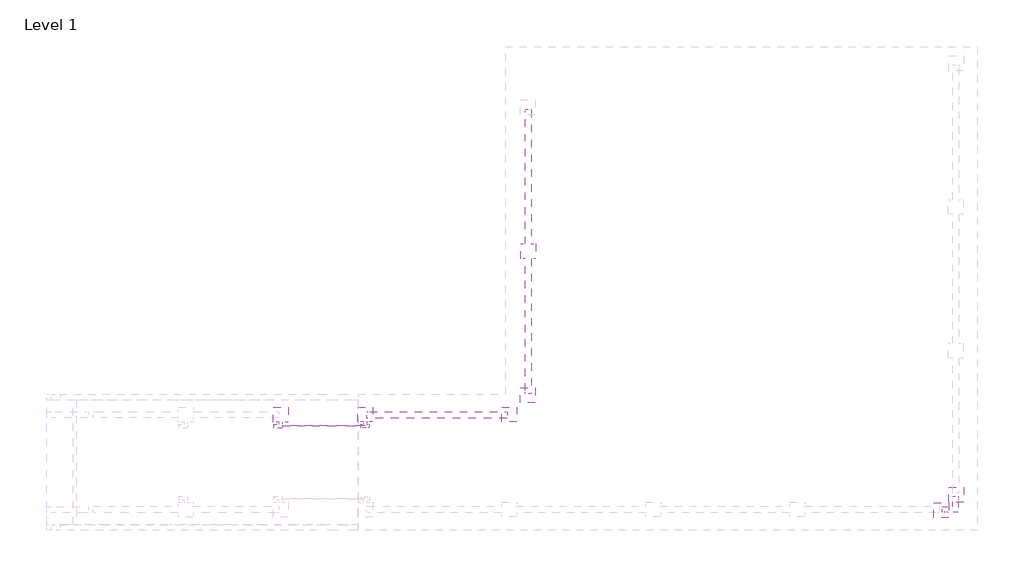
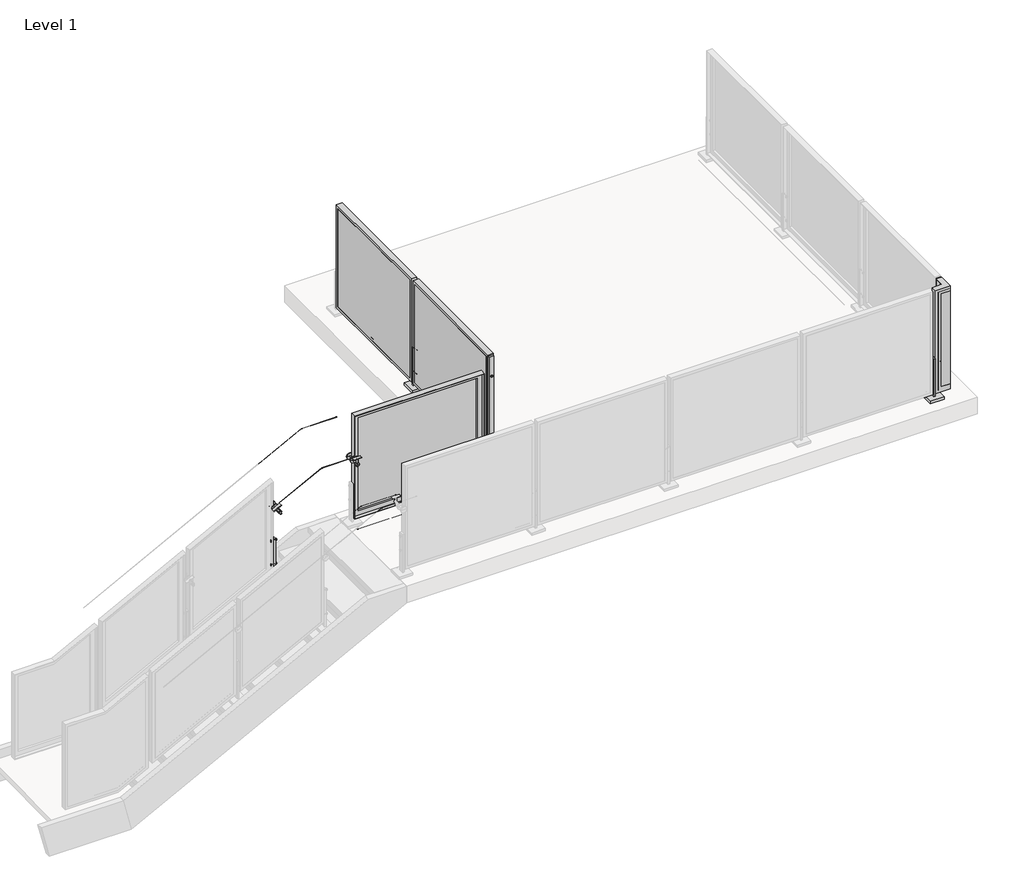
# One storey, part 17 of 37: 5 proxies, 4 railings.
"""IFC4 building model written with IfcOpenShell, lengths in millimetres."""

from ifc_helpers import new_model, si_unit, point, frame, frame_2d, origin, place, context, project, spatial, polyline, circle_curve, ellipse_curve, trimmed, segment, composite_curve, outline, extrude, faceted_brep, transform, mapped, element, save
from ifc_brep_helpers import plane_surface, cylinder_surface, advanced_brep
from components import baluster_end_post_viva_frame_top_mount_efd1a991, baluster_end_post_viva_frame_top_mount_8495f7c5, baluster_end_post_viva_frame_top_mount_259ace8d, baluster_end_post_viva_frame_top_mount_stairs_2918d103, baluster_corner_panel_viva_frame_inside_standard_3efb34d5

model = new_model("IFC4")

# Units and contexts
model_context = context("Model", 3, world=origin())
ifc_project = project(units=[si_unit("LENGTHUNIT", "METRE", prefix="MILLI")], contexts=[model_context])

# Site, building, storey
site = spatial("IfcSite", under=ifc_project)
building = spatial("IfcBuilding", under=site)
storey = spatial("IfcBuildingStorey", under=building, Name="Level 1", Elevation=0.0)

# Proxies
placement = place(None, origin())
baluster_end_post_viva_frame_top_mount_shape = baluster_end_post_viva_frame_top_mount_efd1a991(model_context)
element("IfcBuildingElementProxy", 1, Name="Baluster-End-Post-VIVA-FRAME-Top Mount : ANCHORED TO CONCRETE_TOP MOUNT FOLD_STRAIGHT", ObjectType="Baluster-End-Post-VIVA-FRAME-Top Mount : ANCHORED TO CONCRETE_TOP MOUNT FOLD_STRAIGHT", at=placement, inside=storey, context=model_context, shape_type="MappedRepresentation", body=[
    mapped(baluster_end_post_viva_frame_top_mount_shape, transform((-2333.6813244, -18323.6294547, 3047.492), x_axis=(1.0, 0.0, 0.0), y_axis=(0.0, 1.0, 0.0), z_axis=(0.0, 0.0, 1.0))),
])
element("IfcBuildingElementProxy", 2, Name="Baluster-End-Post-VIVA-FRAME-Top Mount : ANCHORED TO CONCRETE_TOP MOUNT FOLD_STRAIGHT", ObjectType="Baluster-End-Post-VIVA-FRAME-Top Mount : ANCHORED TO CONCRETE_TOP MOUNT FOLD_STRAIGHT", at=placement, inside=storey, context=model_context, shape_type="MappedRepresentation", body=[
    mapped(baluster_end_post_viva_frame_top_mount_shape, transform((-6143.6813244, -17681.7668664, 3047.492), x_axis=(-1.0, 0.0, 0.0), y_axis=(0.0, -1.0, 0.0), z_axis=(0.0, 0.0, 1.0))),
])
baluster_end_post_viva_frame_top_mount_2_shape = baluster_end_post_viva_frame_top_mount_8495f7c5(model_context)
element("IfcBuildingElementProxy", 3, Name="Baluster-End-Post-VIVA-FRAME-Top Mount : ANCHORED TO CONCRETE_TOP MOUNT FOLD_STRAIGHT", ObjectType="Baluster-End-Post-VIVA-FRAME-Top Mount : ANCHORED TO CONCRETE_TOP MOUNT FOLD_STRAIGHT", at=placement, inside=storey, context=model_context, shape_type="MappedRepresentation", body=[
    mapped(baluster_end_post_viva_frame_top_mount_2_shape, transform((-5877.9959244, -17412.2829234, 3047.492), x_axis=(0.0, -1.0, 0.0), y_axis=(1.0, 0.0, 0.0), z_axis=(0.0, 0.0, 1.0))),
])
baluster_end_post_viva_frame_top_mount_3_shape = baluster_end_post_viva_frame_top_mount_259ace8d(model_context)
element("IfcBuildingElementProxy", 4, Name="Baluster-End-Post-VIVA-FRAME-Top Mount : ANCHORED TO CONCRETE_TOP MOUNT FOLD_STRAIGHT", ObjectType="Baluster-End-Post-VIVA-FRAME-Top Mount : ANCHORED TO CONCRETE_TOP MOUNT FOLD_STRAIGHT", at=placement, inside=storey, context=model_context, shape_type="MappedRepresentation", body=[
    mapped(baluster_end_post_viva_frame_top_mount_3_shape, transform((-2300.8759339, -18290.5208207, 3047.492), x_axis=(0.0, 1.0, 0.0), y_axis=(-1.0, 0.0, 0.0), z_axis=(0.0, 0.0, 1.0))),
])
baluster_end_post_viva_frame_top_mount_stairs_shape = baluster_end_post_viva_frame_top_mount_stairs_2918d103(model_context)
element("IfcBuildingElementProxy", 5, Name="Baluster-End-Post-VIVA-FRAME-Top Mount Stairs : ANCHORED TO CONCRETE_TOP MOUNT FRAME_STAIR", ObjectType="Baluster-End-Post-VIVA-FRAME-Top Mount Stairs : ANCHORED TO CONCRETE_TOP MOUNT FRAME_STAIR", at=placement, inside=storey, context=model_context, shape_type="MappedRepresentation", body=[
    mapped(baluster_end_post_viva_frame_top_mount_stairs_shape, transform((-7413.6813244, -17681.7578387, 3784.092), x_axis=(-1.0, 0.0, 0.0), y_axis=(0.0, -1.0, 0.0), z_axis=(0.0, 0.0, 1.0))),
])

# Railings
element("IfcRailing", 6, ObjectType="Metal-Panel-VIVA-FRAME-Slab-Top-Anchor-Stairs-Landing-Upper", at=placement, inside=storey, context=model_context, shape_type="SolidModel", body=[
    advanced_brep(
    [(-8159.4813244, -17682.0118387, 3573.1968892), (-8159.4813244, -17681.5038387, 3573.1968892), (-7753.0192861, -17682.0118387, 3784.346), (-7753.0192861, -17681.5038387, 3784.346), (-7413.6813244, -17682.0118387, 3784.346), (-7413.6813244, -17681.5038387, 3784.346)],
    [
        (0, 1, ellipse_curve(frame((-8159.4813244, -17681.7578387, 3573.1968892), z_axis=(-1.0, 0.0, 0.0), x_axis=(0.0, 0.0, -1.0)), 0.2862277, 0.254)),
        (1, 0, ellipse_curve(frame((-8159.4813244, -17681.7578387, 3573.1968892), z_axis=(-1.0, 0.0, 0.0), x_axis=(0.0, 0.0, -1.0)), 0.2862277, 0.254)),
        (0, 2),
        (2, 3, ellipse_curve(frame((-7753.0192861, -17681.7578387, 3784.346), z_axis=(-0.9714436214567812, 0.0, -0.2372705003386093), x_axis=(0.23727050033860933, 0.0, -0.9714436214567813)), 0.2614665, 0.254)),
        (3, 1),
        (3, 2, ellipse_curve(frame((-7753.0192861, -17681.7578387, 3784.346), z_axis=(-0.9714436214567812, 0.0, -0.2372705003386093), x_axis=(0.23727050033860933, 0.0, -0.9714436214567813)), 0.2614665, 0.254)),
        (4, 5, circle_curve(frame((-7413.6813244, -17681.7578387, 3784.346), z_axis=(1.0, 0.0, 0.0), x_axis=(0.0, 1.0, 0.0)), 0.254)),
        (5, 4, circle_curve(frame((-7413.6813244, -17681.7578387, 3784.346), z_axis=(1.0, 0.0, 0.0), x_axis=(0.0, 1.0, 0.0)), 0.254)),
        (2, 4),
        (5, 3),
    ],
    [
        plane_surface(frame((-8159.4813244, -17681.7578387, 3573.4831169), z_axis=(-1.0, 0.0, 0.0), x_axis=(0.0, 1.0, 0.0))),
        cylinder_surface(frame((-8159.364233, -17681.7578387, 3573.2577159), z_axis=(-0.887405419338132, 0.0, -0.4609898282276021), x_axis=(0.0, 1.0, 0.0)), 0.254),
        plane_surface(frame((-7413.6813244, -17681.7578387, 3784.6), z_axis=(1.0, 0.0, 0.0), x_axis=(0.0, 1.0, 0.0))),
        cylinder_surface(frame((-7753.0813244, -17681.7578387, 3784.346), z_axis=(-1.0, 0.0, 0.0), x_axis=(0.0, 1.0, 0.0)), 0.254),
    ],
    [
        (0, [[1, 2]]),
        (1, [[-1, 3, 4, 5]]),
        (1, [[-2, -5, 6, -3]]),
        (2, [[7, 8]]),
        (3, [[-4, 9, -8, 10]]),
        (3, [[-6, -10, -7, -9]]),
    ],
),
    advanced_brep(
    [(-8159.4813244, -17340.7578387, 3763.4196766), (-8159.4813244, -17339.7578387, 3763.4196766), (-7752.9592018, -17340.7578387, 3974.6), (-7752.9592018, -17339.7578387, 3974.6), (-7413.6813244, -17340.7578387, 3974.6), (-7413.6813244, -17339.7578387, 3974.6)],
    [
        (0, 1, ellipse_curve(frame((-8159.4813244, -17340.2578387, 3763.4196766), z_axis=(-1.0, 0.0, 0.0), x_axis=(0.0, 0.0, -1.0)), 0.5634403, 0.5)),
        (1, 0, ellipse_curve(frame((-8159.4813244, -17340.2578387, 3763.4196766), z_axis=(-1.0, 0.0, 0.0), x_axis=(0.0, 0.0, -1.0)), 0.5634403, 0.5)),
        (0, 2),
        (2, 3, ellipse_curve(frame((-7752.9592018, -17340.2578387, 3974.6), z_axis=(-0.9714436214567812, 0.0, -0.2372705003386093), x_axis=(0.23727050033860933, 0.0, -0.9714436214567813)), 0.5146979, 0.5)),
        (3, 1),
        (3, 2, ellipse_curve(frame((-7752.9592018, -17340.2578387, 3974.6), z_axis=(-0.9714436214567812, 0.0, -0.2372705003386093), x_axis=(0.23727050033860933, 0.0, -0.9714436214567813)), 0.5146979, 0.5)),
        (4, 5, circle_curve(frame((-7413.6813244, -17340.2578387, 3974.6), z_axis=(1.0, 0.0, 0.0), x_axis=(0.0, 1.0, 0.0)), 0.5)),
        (5, 4, circle_curve(frame((-7413.6813244, -17340.2578387, 3974.6), z_axis=(1.0, 0.0, 0.0), x_axis=(0.0, 1.0, 0.0)), 0.5)),
        (2, 4),
        (5, 3),
    ],
    [
        plane_surface(frame((-8159.4813244, -17340.2578387, 3763.9831169), z_axis=(-1.0, 0.0, 0.0), x_axis=(0.0, 1.0, 0.0))),
        cylinder_surface(frame((-8159.2508295, -17340.2578387, 3763.5394142), z_axis=(-0.887405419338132, 0.0, -0.4609898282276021), x_axis=(0.0, 1.0, 0.0)), 0.5),
        plane_surface(frame((-7413.6813244, -17340.2578387, 3975.1), z_axis=(1.0, 0.0, 0.0), x_axis=(0.0, 1.0, 0.0))),
        cylinder_surface(frame((-7753.0813244, -17340.2578387, 3974.6), z_axis=(-1.0, 0.0, 0.0), x_axis=(0.0, 1.0, 0.0)), 0.5),
    ],
    [
        (0, [[1, 2]]),
        (1, [[-1, 3, 4, 5]]),
        (1, [[-2, -5, 6, -3]]),
        (2, [[7, 8]]),
        (3, [[-4, 9, -8, 10]]),
        (3, [[-6, -10, -7, -9]]),
    ],
),
    extrude(outline(composite_curve([segment(trimmed(circle_curve(frame_2d((-19.0451471, 0.0)), 22.0448871), [point((2.99974, -1e-07))], [point((-24.3499073, -21.397116))], False, "CARTESIAN"), True, "CONTINUOUS"), segment(polyline([(-24.3499073, -21.397116), (-23.6280664, -18.4855208)]), True, "CONTINUOUS"), segment(trimmed(circle_curve(frame_2d((-19.0451471, 0.0)), 19.0451471), [point((-23.6280664, -18.4855208))], [point((0.0, 0.0))], True, "CARTESIAN"), True, "CONTINUOUS"), segment(polyline([(0.0, 0.0), (2.99974, -1e-07)]), True, "CONTINUOUS")], self_intersect=False)), frame((-8221.9690349, -17670.1360387, 3522.3349137), z_axis=(0.8874054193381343, 0.0, 0.46098982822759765), x_axis=(0.2840545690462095, 0.7876022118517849, -0.5468050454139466)), (0.0, 0.0, 1.0), 79.1184357),
    advanced_brep(
    [(-8147.0841468, -17685.1360387, 3463.9951499), (-8147.0841468, -17692.2797887, 3463.9951499), (-8147.0841468, -17677.9922887, 3463.9951499), (-8182.9433931, -17677.9922887, 3533.024199), (-8182.9433931, -17692.2797887, 3533.024199), (-8182.9433931, -17685.1360387, 3533.024199)],
    [
        (0, 1),
        (1, 2, circle_curve(frame((-8147.0841468, -17685.1360387, 3463.9951499), z_axis=(0.4609898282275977, 0.0, -0.8874054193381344), x_axis=(0.0, -1.0000000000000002, 0.0)), 7.14375)),
        (2, 0),
        (3, 4, circle_curve(frame((-8182.9433931, -17685.1360387, 3533.024199), z_axis=(-0.4609898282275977, 0.0, 0.8874054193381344), x_axis=(0.0, -1.0000000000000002, 0.0)), 7.14375)),
        (4, 5),
        (5, 3),
        (2, 1, circle_curve(frame((-8147.0841468, -17685.1360387, 3463.9951499), z_axis=(0.4609898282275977, 0.0, -0.8874054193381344), x_axis=(0.0, -1.0000000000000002, 0.0)), 7.14375)),
        (4, 3, circle_curve(frame((-8182.9433931, -17685.1360387, 3533.024199), z_axis=(-0.4609898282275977, 0.0, 0.8874054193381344), x_axis=(0.0, -1.0000000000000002, 0.0)), 7.14375)),
        (1, 4),
        (3, 2),
    ],
    [
        plane_surface(frame((-8147.0841468, -17685.1360387, 3463.9951499), z_axis=(0.4609898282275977, 0.0, -0.8874054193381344), x_axis=(0.0, -1.0, 0.0))),
        plane_surface(frame((-8182.9433931, -17685.1360387, 3533.024199), z_axis=(-0.4609898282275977, 0.0, 0.8874054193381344), x_axis=(0.0, -1.0, 0.0))),
        cylinder_surface(frame((-8030.1299469, -17685.1360387, 3238.8583152), z_axis=(0.4609898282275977, 0.0, -0.8874054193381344), x_axis=(0.0, -1.0000000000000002, 0.0)), 7.14375),
    ],
    [
        (0, [[1, 2, 3]]),
        (1, [[4, 5, 6]]),
        (0, [[-3, 7, -1]]),
        (1, [[8, -6, -5]]),
        (2, [[-2, 9, -4, 10]]),
        (2, [[-7, -10, -8, -9]]),
    ],
),
    advanced_brep(
    [(-8186.2476904, -17558.1360387, 3473.9551112), (-8132.7149585, -17558.1360387, 3501.7643226), (-8153.8463, -17558.1360387, 3490.7870023), (-8165.1163488, -17558.1360387, 3484.9324315), (-8186.2476904, -17550.1985387, 3473.9551112), (-8132.7149585, -17550.1985387, 3501.7643226), (-8186.2476904, -17616.8735387, 3473.9551112), (-8132.7149585, -17616.8735387, 3501.7643226), (-8148.2112756, -17616.8735387, 3493.7142877), (-8170.7513733, -17616.8735387, 3482.0051461), (-8186.2476904, -17608.9360387, 3473.9551112), (-8132.7149585, -17608.9360387, 3501.7643226), (-8159.4813244, -17550.1985387, 3487.8597169), (-8170.7513733, -17696.2485387, 3482.0051461), (-8148.2112756, -17696.2485387, 3493.7142877), (-8159.4813244, -17696.2485387, 3487.8597169), (-8165.1163488, -17608.9360387, 3484.9324315), (-8153.8463, -17608.9360387, 3490.7870023)],
    [
        (0, 1, circle_curve(frame((-8159.4813244, -17558.1360387, 3487.8597169), z_axis=(0.0, -1.0, 0.0), x_axis=(0.8874054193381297, 0.0, 0.4609898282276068)), 30.1625)),
        (1, 2),
        (2, 3, circle_curve(frame((-8159.4813244, -17558.1360387, 3487.8597169), z_axis=(0.0, 1.0, 0.0), x_axis=(0.8874054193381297, 0.0, 0.4609898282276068)), 6.35)),
        (3, 0),
        (4, 5, circle_curve(frame((-8159.4813244, -17550.1985387, 3487.8597169), z_axis=(0.0, -1.0, 0.0), x_axis=(0.8874054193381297, 0.0, 0.4609898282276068)), 30.1625)),
        (5, 1),
        (0, 4),
        (6, 7, circle_curve(frame((-8159.4813244, -17616.8735387, 3487.8597169), z_axis=(0.0, -1.0, 0.0), x_axis=(0.8874054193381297, 0.0, 0.4609898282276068)), 30.1625)),
        (7, 8),
        (8, 9, circle_curve(frame((-8159.4813244, -17616.8735387, 3487.8597169), z_axis=(0.0, 1.0, 0.0), x_axis=(0.8874054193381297, 0.0, 0.4609898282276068)), 12.7)),
        (9, 6),
        (10, 11, circle_curve(frame((-8159.4813244, -17608.9360387, 3487.8597169), z_axis=(0.0, -1.0, 0.0), x_axis=(0.8874054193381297, 0.0, 0.4609898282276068)), 30.1625)),
        (11, 7),
        (6, 10),
        (5, 4, circle_curve(frame((-8159.4813244, -17550.1985387, 3487.8597169), z_axis=(0.0, -1.0, 0.0), x_axis=(0.8874054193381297, 0.0, 0.4609898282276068)), 30.1625)),
        (0, 1, circle_curve(frame((-8159.4813244, -17558.1360387, 3487.8597169), z_axis=(0.0, 1.0, 0.0), x_axis=(0.8874054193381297, 0.0, 0.4609898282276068)), 30.1625)),
        (12, 5),
        (4, 12),
        (13, 14, circle_curve(frame((-8159.4813244, -17696.2485387, 3487.8597169), z_axis=(0.0, -1.0, 0.0), x_axis=(0.8874054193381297, 0.0, 0.4609898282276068)), 12.7)),
        (14, 15),
        (15, 13),
        (14, 13, circle_curve(frame((-8159.4813244, -17696.2485387, 3487.8597169), z_axis=(0.0, -1.0, 0.0), x_axis=(0.8874054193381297, 0.0, 0.4609898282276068)), 12.7)),
        (8, 14),
        (13, 9),
        (8, 9, circle_curve(frame((-8159.4813244, -17616.8735387, 3487.8597169), z_axis=(0.0, -1.0, 0.0), x_axis=(0.8874054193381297, 0.0, 0.4609898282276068)), 12.7)),
        (7, 6, circle_curve(frame((-8159.4813244, -17616.8735387, 3487.8597169), z_axis=(0.0, -1.0, 0.0), x_axis=(0.8874054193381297, 0.0, 0.4609898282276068)), 30.1625)),
        (11, 10, circle_curve(frame((-8159.4813244, -17608.9360387, 3487.8597169), z_axis=(0.0, -1.0, 0.0), x_axis=(0.8874054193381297, 0.0, 0.4609898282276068)), 30.1625)),
        (16, 17, circle_curve(frame((-8159.4813244, -17608.9360387, 3487.8597169), z_axis=(0.0, -1.0, 0.0), x_axis=(0.8874054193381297, 0.0, 0.4609898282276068)), 6.35)),
        (17, 11),
        (10, 16),
        (17, 16, circle_curve(frame((-8159.4813244, -17608.9360387, 3487.8597169), z_axis=(0.0, -1.0, 0.0), x_axis=(0.8874054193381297, 0.0, 0.4609898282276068)), 6.35)),
        (2, 17),
        (16, 3),
        (2, 3, circle_curve(frame((-8159.4813244, -17558.1360387, 3487.8597169), z_axis=(0.0, -1.0, 0.0), x_axis=(0.8874054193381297, 0.0, 0.4609898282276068)), 6.35)),
    ],
    [
        plane_surface(frame((-8159.4813244, -17558.1360387, 3487.8597169), z_axis=(0.0, -1.0000000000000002, 0.0), x_axis=(0.8874054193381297, 0.0, 0.4609898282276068))),
        cylinder_surface(frame((-8159.4813244, -16084.9360387, 3487.8597169), z_axis=(0.0, 1.0000000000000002, 0.0), x_axis=(0.8874054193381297, 0.0, 0.4609898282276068)), 30.1625),
        plane_surface(frame((-8159.4813244, -17616.8735387, 3487.8597169), z_axis=(0.0, -1.0000000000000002, 0.0), x_axis=(0.8874054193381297, 0.0, 0.4609898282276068))),
        plane_surface(frame((-8159.4813244, -17550.1985387, 3487.8597169), z_axis=(0.0, 1.0000000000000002, 0.0), x_axis=(0.8874054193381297, 0.0, 0.4609898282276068))),
        plane_surface(frame((-8159.4813244, -17696.2485387, 3487.8597169), z_axis=(0.0, -1.0000000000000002, 0.0), x_axis=(0.8874054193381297, 0.0, 0.4609898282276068))),
        cylinder_surface(frame((-8159.4813244, -16084.9360387, 3487.8597169), z_axis=(0.0, 1.0000000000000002, 0.0), x_axis=(0.8874054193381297, 0.0, 0.4609898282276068)), 12.7),
        plane_surface(frame((-8159.4813244, -17608.9360387, 3487.8597169), z_axis=(0.0, 1.0000000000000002, 0.0), x_axis=(0.8874054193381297, 0.0, 0.4609898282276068))),
        cylinder_surface(frame((-8159.4813244, -16084.9360387, 3487.8597169), z_axis=(0.0, 1.0000000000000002, 0.0), x_axis=(0.8874054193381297, 0.0, 0.4609898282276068)), 6.35),
    ],
    [
        (0, [[1, 2, 3, 4]]),
        (1, [[5, 6, -1, 7]]),
        (2, [[8, 9, 10, 11]]),
        (1, [[12, 13, -8, 14]]),
        (1, [[15, -7, 16, -6]]),
        (3, [[17, -5, 18]]),
        (3, [[-18, -15, -17]]),
        (4, [[19, 20, 21]]),
        (4, [[22, -21, -20]]),
        (5, [[-10, 23, -19, 24]]),
        (5, [[25, -24, -22, -23]]),
        (2, [[26, -11, -25, -9]]),
        (1, [[27, -14, -26, -13]]),
        (6, [[28, 29, -12, 30]]),
        (6, [[31, -30, -27, -29]]),
        (7, [[-3, 32, -28, 33]]),
        (7, [[34, -33, -31, -32]]),
        (0, [[-16, -4, -34, -2]]),
    ],
),
    advanced_brep(
    [(-8185.6687244, -17583.5360387, 2887.8638857), (-8185.6687244, -17583.5360387, 2897.4142857), (-8185.6687244, -17583.5360387, 2906.9646857), (-8180.8935244, -17583.5360387, 2887.8638857), (-8180.8935244, -17583.5360387, 2906.9646857), (-8180.8935244, -17583.5360387, 2892.6390857), (-8180.8935244, -17583.5360387, 2902.1894857), (-8138.0691244, -17583.5360387, 2892.6390857), (-8138.0691244, -17583.5360387, 2902.1894857), (-8138.0691244, -17583.5360387, 2887.8638857), (-8138.0691244, -17583.5360387, 2906.9646857), (-8133.2939244, -17583.5360387, 2887.8638857), (-8133.2939244, -17583.5360387, 2906.9646857), (-8133.2939244, -17583.5360387, 2897.4142857)],
    [
        (0, 1),
        (1, 2),
        (2, 0, circle_curve(frame((-8185.6687244, -17583.5360387, 2897.4142857), z_axis=(-1.0, 0.0, 0.0), x_axis=(0.0, 0.0, 1.0)), 9.5504)),
        (0, 2, circle_curve(frame((-8185.6687244, -17583.5360387, 2897.4142857), z_axis=(-1.0, 0.0, 0.0), x_axis=(0.0, 0.0, 1.0)), 9.5504)),
        (3, 0),
        (2, 4),
        (4, 3, circle_curve(frame((-8180.8935244, -17583.5360387, 2897.4142857), z_axis=(-1.0, 0.0, 0.0), x_axis=(0.0, 0.0, 1.0)), 9.5504)),
        (3, 4, circle_curve(frame((-8180.8935244, -17583.5360387, 2897.4142857), z_axis=(-1.0, 0.0, 0.0), x_axis=(0.0, 0.0, 1.0)), 9.5504)),
        (5, 3),
        (4, 6),
        (6, 5, circle_curve(frame((-8180.8935244, -17583.5360387, 2897.4142857), z_axis=(-1.0, 0.0, 0.0), x_axis=(0.0, 0.0, 1.0)), 4.7752)),
        (5, 6, circle_curve(frame((-8180.8935244, -17583.5360387, 2897.4142857), z_axis=(-1.0, 0.0, 0.0), x_axis=(0.0, 0.0, 1.0)), 4.7752)),
        (7, 5),
        (6, 8),
        (8, 7, circle_curve(frame((-8138.0691244, -17583.5360387, 2897.4142857), z_axis=(-1.0, 0.0, 0.0), x_axis=(0.0, 0.0, 1.0)), 4.7752)),
        (7, 8, circle_curve(frame((-8138.0691244, -17583.5360387, 2897.4142857), z_axis=(-1.0, 0.0, 0.0), x_axis=(0.0, 0.0, 1.0)), 4.7752)),
        (9, 7),
        (8, 10),
        (10, 9, circle_curve(frame((-8138.0691244, -17583.5360387, 2897.4142857), z_axis=(-1.0, 0.0, 0.0), x_axis=(0.0, 0.0, 1.0)), 9.5504)),
        (9, 10, circle_curve(frame((-8138.0691244, -17583.5360387, 2897.4142857), z_axis=(-1.0, 0.0, 0.0), x_axis=(0.0, 0.0, 1.0)), 9.5504)),
        (11, 9),
        (10, 12),
        (12, 11, circle_curve(frame((-8133.2939244, -17583.5360387, 2897.4142857), z_axis=(-1.0, 0.0, 0.0), x_axis=(0.0, 0.0, 1.0)), 9.5504)),
        (11, 12, circle_curve(frame((-8133.2939244, -17583.5360387, 2897.4142857), z_axis=(-1.0, 0.0, 0.0), x_axis=(0.0, 0.0, 1.0)), 9.5504)),
        (13, 11),
        (12, 13),
    ],
    [
        plane_surface(frame((-8185.6687244, -17583.5360387, 2897.4142857), z_axis=(-1.0, 0.0, 0.0), x_axis=(0.0, 0.0, 1.0))),
        cylinder_surface(frame((-11577.2490816, -17583.5360387, 2897.4142857), z_axis=(1.0, 0.0, 0.0), x_axis=(0.0, 0.0, 1.0)), 9.5504),
        plane_surface(frame((-8180.8935244, -17583.5360387, 2897.4142857), z_axis=(1.0, 0.0, 0.0), x_axis=(0.0, 0.0, 1.0))),
        cylinder_surface(frame((-11577.2490816, -17583.5360387, 2897.4142857), z_axis=(1.0, 0.0, 0.0), x_axis=(0.0, 0.0, 1.0)), 4.7752),
        plane_surface(frame((-8138.0691244, -17583.5360387, 2897.4142857), z_axis=(-1.0, 0.0, 0.0), x_axis=(0.0, 0.0, 1.0))),
        plane_surface(frame((-8133.2939244, -17583.5360387, 2897.4142857), z_axis=(1.0, 0.0, 0.0), x_axis=(0.0, 0.0, 1.0))),
    ],
    [
        (0, [[1, 2, 3]]),
        (0, [[-2, -1, 4]]),
        (1, [[5, -3, 6, 7]]),
        (1, [[-6, -4, -5, 8]]),
        (2, [[9, -7, 10, 11]]),
        (2, [[-10, -8, -9, 12]]),
        (3, [[13, -11, 14, 15]]),
        (3, [[-14, -12, -13, 16]]),
        (4, [[17, -15, 18, 19]]),
        (4, [[-18, -16, -17, 20]]),
        (1, [[21, -19, 22, 23]]),
        (1, [[-22, -20, -21, 24]]),
        (5, [[25, -23, 26]]),
        (5, [[-26, -24, -25]]),
    ],
),
    advanced_brep(
    [(-8185.6687244, -17583.5360387, 3129.1638857), (-8185.6687244, -17583.5360387, 3138.7142857), (-8185.6687244, -17583.5360387, 3148.2646857), (-8180.8935244, -17583.5360387, 3129.1638857), (-8180.8935244, -17583.5360387, 3148.2646857), (-8180.8935244, -17583.5360387, 3133.9390857), (-8180.8935244, -17583.5360387, 3143.4894857), (-8138.0691244, -17583.5360387, 3133.9390857), (-8138.0691244, -17583.5360387, 3143.4894857), (-8138.0691244, -17583.5360387, 3129.1638857), (-8138.0691244, -17583.5360387, 3148.2646857), (-8133.2939244, -17583.5360387, 3129.1638857), (-8133.2939244, -17583.5360387, 3148.2646857), (-8133.2939244, -17583.5360387, 3138.7142857)],
    [
        (0, 1),
        (1, 2),
        (2, 0, circle_curve(frame((-8185.6687244, -17583.5360387, 3138.7142857), z_axis=(-1.0, 0.0, 0.0), x_axis=(0.0, 0.0, 1.0)), 9.5504)),
        (0, 2, circle_curve(frame((-8185.6687244, -17583.5360387, 3138.7142857), z_axis=(-1.0, 0.0, 0.0), x_axis=(0.0, 0.0, 1.0)), 9.5504)),
        (3, 0),
        (2, 4),
        (4, 3, circle_curve(frame((-8180.8935244, -17583.5360387, 3138.7142857), z_axis=(-1.0, 0.0, 0.0), x_axis=(0.0, 0.0, 1.0)), 9.5504)),
        (3, 4, circle_curve(frame((-8180.8935244, -17583.5360387, 3138.7142857), z_axis=(-1.0, 0.0, 0.0), x_axis=(0.0, 0.0, 1.0)), 9.5504)),
        (5, 3),
        (4, 6),
        (6, 5, circle_curve(frame((-8180.8935244, -17583.5360387, 3138.7142857), z_axis=(-1.0, 0.0, 0.0), x_axis=(0.0, 0.0, 1.0)), 4.7752)),
        (5, 6, circle_curve(frame((-8180.8935244, -17583.5360387, 3138.7142857), z_axis=(-1.0, 0.0, 0.0), x_axis=(0.0, 0.0, 1.0)), 4.7752)),
        (7, 5),
        (6, 8),
        (8, 7, circle_curve(frame((-8138.0691244, -17583.5360387, 3138.7142857), z_axis=(-1.0, 0.0, 0.0), x_axis=(0.0, 0.0, 1.0)), 4.7752)),
        (7, 8, circle_curve(frame((-8138.0691244, -17583.5360387, 3138.7142857), z_axis=(-1.0, 0.0, 0.0), x_axis=(0.0, 0.0, 1.0)), 4.7752)),
        (9, 7),
        (8, 10),
        (10, 9, circle_curve(frame((-8138.0691244, -17583.5360387, 3138.7142857), z_axis=(-1.0, 0.0, 0.0), x_axis=(0.0, 0.0, 1.0)), 9.5504)),
        (9, 10, circle_curve(frame((-8138.0691244, -17583.5360387, 3138.7142857), z_axis=(-1.0, 0.0, 0.0), x_axis=(0.0, 0.0, 1.0)), 9.5504)),
        (11, 9),
        (10, 12),
        (12, 11, circle_curve(frame((-8133.2939244, -17583.5360387, 3138.7142857), z_axis=(-1.0, 0.0, 0.0), x_axis=(0.0, 0.0, 1.0)), 9.5504)),
        (11, 12, circle_curve(frame((-8133.2939244, -17583.5360387, 3138.7142857), z_axis=(-1.0, 0.0, 0.0), x_axis=(0.0, 0.0, 1.0)), 9.5504)),
        (13, 11),
        (12, 13),
    ],
    [
        plane_surface(frame((-8185.6687244, -17583.5360387, 3138.7142857), z_axis=(-1.0, 0.0, 0.0), x_axis=(0.0, 0.0, 1.0))),
        cylinder_surface(frame((-11577.2490816, -17583.5360387, 3138.7142857), z_axis=(1.0, 0.0, 0.0), x_axis=(0.0, 0.0, 1.0)), 9.5504),
        plane_surface(frame((-8180.8935244, -17583.5360387, 3138.7142857), z_axis=(1.0, 0.0, 0.0), x_axis=(0.0, 0.0, 1.0))),
        cylinder_surface(frame((-11577.2490816, -17583.5360387, 3138.7142857), z_axis=(1.0, 0.0, 0.0), x_axis=(0.0, 0.0, 1.0)), 4.7752),
        plane_surface(frame((-8138.0691244, -17583.5360387, 3138.7142857), z_axis=(-1.0, 0.0, 0.0), x_axis=(0.0, 0.0, 1.0))),
        plane_surface(frame((-8133.2939244, -17583.5360387, 3138.7142857), z_axis=(1.0, 0.0, 0.0), x_axis=(0.0, 0.0, 1.0))),
    ],
    [
        (0, [[1, 2, 3]]),
        (0, [[-2, -1, 4]]),
        (1, [[5, -3, 6, 7]]),
        (1, [[-6, -4, -5, 8]]),
        (2, [[9, -7, 10, 11]]),
        (2, [[-10, -8, -9, 12]]),
        (3, [[13, -11, 14, 15]]),
        (3, [[-14, -12, -13, 16]]),
        (4, [[17, -15, 18, 19]]),
        (4, [[-18, -16, -17, 20]]),
        (1, [[21, -19, 22, 23]]),
        (1, [[-22, -20, -21, 24]]),
        (5, [[25, -23, 26]]),
        (5, [[-26, -24, -25]]),
    ],
),
    extrude(outline(polyline([(-8225.3689244, -17649.4236387), (-8225.3689244, -17517.6484387), (-8093.5937244, -17517.6484387), (-8093.5937244, -17649.4236387), (-8225.3689244, -17649.4236387)])), frame((0.0, 0.0, 2757.7142857), z_axis=(0.0, 0.0, 1.0), x_axis=(1.0, 0.0, 0.0)), (0.0, 0.0, 1.0), 25.4),
    extrude(outline(polyline([(-8167.4209161, -17605.7610387), (-8167.4209161, -17561.3110387), (-8151.5417328, -17561.3110387), (-8151.5417328, -17605.7610387), (-8167.4209161, -17605.7610387)])), frame((0.0, 0.0, 2757.7142857), z_axis=(0.0, 0.0, 1.0), x_axis=(1.0, 0.0, 0.0)), (0.0, 0.0, 1.0), 406.4),
])
baluster_corner_panel_viva_frame_inside_standard_shape = baluster_corner_panel_viva_frame_inside_standard_3efb34d5(model_context)
element("IfcRailing", 7, ObjectType="Baluster-Corner-Panel-VIVA-FRAME : Inside_Standard", at=placement, inside=storey, context=model_context, shape_type="MappedRepresentation", body=[
    mapped(baluster_corner_panel_viva_frame_inside_standard_shape, transform((-2181.0655339, -18444.3140278, 3022.346), x_axis=(0.0, 1.0, 0.0), y_axis=(-1.0, 0.0, 0.0), z_axis=(0.0, 0.0, 1.0))),
])
element("IfcRailing", 8, ObjectType="Metal-Panel-VIVA-FRAME-Slab-Top-Anchor-Straight", at=placement, inside=storey, context=model_context, shape_type="SolidModel", body=[
    extrude(outline(composite_curve([segment(trimmed(circle_curve(frame_2d((3047.746, -5877.9959244)), 0.254), [point((3047.746, -5877.7419244))], [point((3047.746, -5878.2499244))], False, "CARTESIAN"), True, "CONTINUOUS"), segment(trimmed(circle_curve(frame_2d((3047.746, -5877.9959244)), 0.254), [point((3047.746, -5878.2499244))], [point((3047.746, -5877.7419244))], False, "CARTESIAN"), True, "CONTINUOUS")], self_intersect=False)), frame((0.0, -17412.2829234, 0.0), z_axis=(0.0, 1.0, 0.0), x_axis=(0.0, 0.0, 1.0)), (0.0, 0.0, 1.0), 2540.0),
    extrude(outline(composite_curve([segment(trimmed(circle_curve(frame_2d((3047.746, -5877.9959244)), 0.254), [point((3047.746, -5877.7419244))], [point((3047.746, -5878.2499244))], False, "CARTESIAN"), True, "CONTINUOUS"), segment(trimmed(circle_curve(frame_2d((3047.746, -5877.9959244)), 0.254), [point((3047.746, -5878.2499244))], [point((3047.746, -5877.7419244))], False, "CARTESIAN"), True, "CONTINUOUS")], self_intersect=False)), frame((0.0, -17412.2829234, 0.0), z_axis=(0.0, 1.0, 0.0), x_axis=(0.0, 0.0, 1.0)), (0.0, 0.0, 1.0), 2540.0),
    extrude(outline(polyline([(-6000.8063244, -16101.4564664), (-6000.8063244, -14913.1093803), (-5997.8063244, -14913.1093803), (-5997.8063244, -16101.4564664), (-6000.8063244, -16101.4564664)])), frame((0.0, 0.0, 3124.1959569), z_axis=(0.0, 0.0, 1.0), x_axis=(1.0, 0.0, 0.0)), (0.0, 0.0, 1.0), 990.5826861),
    faceted_brep([(-6000.8063244, -16126.8564664, 4140.1786431), (-6000.8063244, -14887.7093803, 4140.1786431), (-6000.8063244, -14887.7093803, 3098.7959569), (-6000.8063244, -16126.8564664, 3098.7959569), (-6000.8063244, -16101.4564664, 4114.7786431), (-6000.8063244, -16101.4564664, 3124.1959569), (-6000.8063244, -14913.1093803, 3124.1959569), (-6000.8063244, -14913.1093803, 4114.7786431), (-5997.8063244, -16101.4564664, 3124.1959569), (-5997.8063244, -14913.1093803, 3124.1959569), (-5997.8063244, -14913.1093803, 4114.7786431), (-5997.8063244, -16101.4564664, 4114.7786431), (-5947.0063244, -16120.8620664, 3104.7903569), (-5947.0063244, -14893.7037803, 3104.7903569), (-5977.8165244, -14893.7037803, 3104.7903569), (-5977.8165244, -16120.8620664, 3104.7903569), (-5947.0063244, -14893.7037803, 4134.1842431), (-5977.8165244, -14893.7037803, 4134.1842431), (-5977.8165244, -16120.8620664, 4134.1842431), (-5947.0063244, -16120.8620664, 4134.1842431), (-5947.0063244, -14887.7093803, 3098.7959569), (-5947.0063244, -14887.7093803, 4140.1786431), (-5947.0063244, -16126.8564664, 4140.1786431), (-5947.0063244, -16126.8564664, 3098.7959569), (-5997.8063244, -16076.0564664, 4089.3786431), (-5997.8063244, -16076.0564664, 3149.5959569), (-5997.8063244, -14938.5093803, 3149.5959569), (-5997.8063244, -14938.5093803, 4089.3786431), (-5977.8165244, -14938.5093803, 3149.5959569), (-5977.8165244, -16076.0564664, 3149.5959569), (-5977.8165244, -16076.0564664, 4089.3786431), (-5977.8165244, -14938.5093803, 4089.3786431)], [[[0, 1, 2, 3], [4, 5, 6, 7]], [[5, 8, 9, 6]], [[6, 9, 10, 7]], [[7, 10, 11, 4]], [[4, 11, 8, 5]], [[12, 13, 14, 15]], [[13, 16, 17, 14]], [[15, 18, 19, 12]], [[20, 21, 22, 23], [12, 19, 16, 13]], [[23, 22, 0, 3]], [[23, 3, 2, 20]], [[2, 1, 21, 20]], [[22, 21, 1, 0]], [[11, 10, 9, 8], [24, 25, 26, 27]], [[14, 17, 18, 15], [28, 29, 30, 31]], [[18, 17, 16, 19]], [[27, 31, 30, 24]], [[26, 28, 31, 27]], [[25, 29, 28, 26]], [[24, 30, 29, 25]]]),
    advanced_brep(
    [(-5973.9063244, -16168.4703234, 3178.1496), (-5973.9063244, -16168.4703234, 3187.7), (-5973.9063244, -16168.4703234, 3197.2504), (-5973.9063244, -16163.6951234, 3178.1496), (-5973.9063244, -16163.6951234, 3197.2504), (-5973.9063244, -16163.6951234, 3182.9248), (-5973.9063244, -16163.6951234, 3192.4752), (-5973.9063244, -16120.8707234, 3182.9248), (-5973.9063244, -16120.8707234, 3192.4752), (-5973.9063244, -16120.8707234, 3178.1496), (-5973.9063244, -16120.8707234, 3197.2504), (-5973.9063244, -16116.0955234, 3178.1496), (-5973.9063244, -16116.0955234, 3197.2504), (-5973.9063244, -16116.0955234, 3187.7)],
    [
        (0, 1),
        (1, 2),
        (2, 0, circle_curve(frame((-5973.9063244, -16168.4703234, 3187.7), z_axis=(0.0, -1.0, 0.0), x_axis=(0.0, 0.0, 1.0)), 9.5504)),
        (0, 2, circle_curve(frame((-5973.9063244, -16168.4703234, 3187.7), z_axis=(0.0, -1.0, 0.0), x_axis=(0.0, 0.0, 1.0)), 9.5504)),
        (3, 0),
        (2, 4),
        (4, 3, circle_curve(frame((-5973.9063244, -16163.6951234, 3187.7), z_axis=(0.0, -1.0, 0.0), x_axis=(0.0, 0.0, 1.0)), 9.5504)),
        (3, 4, circle_curve(frame((-5973.9063244, -16163.6951234, 3187.7), z_axis=(0.0, -1.0, 0.0), x_axis=(0.0, 0.0, 1.0)), 9.5504)),
        (5, 3),
        (4, 6),
        (6, 5, circle_curve(frame((-5973.9063244, -16163.6951234, 3187.7), z_axis=(0.0, -1.0, 0.0), x_axis=(0.0, 0.0, 1.0)), 4.7752)),
        (5, 6, circle_curve(frame((-5973.9063244, -16163.6951234, 3187.7), z_axis=(0.0, -1.0, 0.0), x_axis=(0.0, 0.0, 1.0)), 4.7752)),
        (7, 5),
        (6, 8),
        (8, 7, circle_curve(frame((-5973.9063244, -16120.8707234, 3187.7), z_axis=(0.0, -1.0, 0.0), x_axis=(0.0, 0.0, 1.0)), 4.7752)),
        (7, 8, circle_curve(frame((-5973.9063244, -16120.8707234, 3187.7), z_axis=(0.0, -1.0, 0.0), x_axis=(0.0, 0.0, 1.0)), 4.7752)),
        (9, 7),
        (8, 10),
        (10, 9, circle_curve(frame((-5973.9063244, -16120.8707234, 3187.7), z_axis=(0.0, -1.0, 0.0), x_axis=(0.0, 0.0, 1.0)), 9.5504)),
        (9, 10, circle_curve(frame((-5973.9063244, -16120.8707234, 3187.7), z_axis=(0.0, -1.0, 0.0), x_axis=(0.0, 0.0, 1.0)), 9.5504)),
        (11, 9),
        (10, 12),
        (12, 11, circle_curve(frame((-5973.9063244, -16116.0955234, 3187.7), z_axis=(0.0, -1.0, 0.0), x_axis=(0.0, 0.0, 1.0)), 9.5504)),
        (11, 12, circle_curve(frame((-5973.9063244, -16116.0955234, 3187.7), z_axis=(0.0, -1.0, 0.0), x_axis=(0.0, 0.0, 1.0)), 9.5504)),
        (13, 11),
        (12, 13),
    ],
    [
        plane_surface(frame((-5973.9063244, -16168.4703234, 3187.7), z_axis=(0.0, -1.0, 0.0), x_axis=(0.0, 0.0, 1.0))),
        cylinder_surface(frame((-5973.9063244, -19560.0506805, 3187.7), z_axis=(0.0, 1.0, 0.0), x_axis=(0.0, 0.0, 1.0)), 9.5504),
        plane_surface(frame((-5973.9063244, -16163.6951234, 3187.7), z_axis=(0.0, 1.0, 0.0), x_axis=(0.0, 0.0, 1.0))),
        cylinder_surface(frame((-5973.9063244, -19560.0506805, 3187.7), z_axis=(0.0, 1.0, 0.0), x_axis=(0.0, 0.0, 1.0)), 4.7752),
        plane_surface(frame((-5973.9063244, -16120.8707234, 3187.7), z_axis=(0.0, -1.0, 0.0), x_axis=(0.0, 0.0, 1.0))),
        plane_surface(frame((-5973.9063244, -16116.0955234, 3187.7), z_axis=(0.0, 1.0, 0.0), x_axis=(0.0, 0.0, 1.0))),
    ],
    [
        (0, [[1, 2, 3]]),
        (0, [[-2, -1, 4]]),
        (1, [[5, -3, 6, 7]]),
        (1, [[-6, -4, -5, 8]]),
        (2, [[9, -7, 10, 11]]),
        (2, [[-10, -8, -9, 12]]),
        (3, [[13, -11, 14, 15]]),
        (3, [[-14, -12, -13, 16]]),
        (4, [[17, -15, 18, 19]]),
        (4, [[-18, -16, -17, 20]]),
        (1, [[21, -19, 22, 23]]),
        (1, [[-22, -20, -21, 24]]),
        (5, [[25, -23, 26]]),
        (5, [[-26, -24, -25]]),
    ],
),
    advanced_brep(
    [(-5973.9063244, -16168.4703234, 3419.4496), (-5973.9063244, -16168.4703234, 3429.0), (-5973.9063244, -16168.4703234, 3438.5504), (-5973.9063244, -16163.6951234, 3419.4496), (-5973.9063244, -16163.6951234, 3438.5504), (-5973.9063244, -16163.6951234, 3424.2248), (-5973.9063244, -16163.6951234, 3433.7752), (-5973.9063244, -16120.8707234, 3424.2248), (-5973.9063244, -16120.8707234, 3433.7752), (-5973.9063244, -16120.8707234, 3419.4496), (-5973.9063244, -16120.8707234, 3438.5504), (-5973.9063244, -16116.0955234, 3419.4496), (-5973.9063244, -16116.0955234, 3438.5504), (-5973.9063244, -16116.0955234, 3429.0)],
    [
        (0, 1),
        (1, 2),
        (2, 0, circle_curve(frame((-5973.9063244, -16168.4703234, 3429.0), z_axis=(0.0, -1.0, 0.0), x_axis=(0.0, 0.0, 1.0)), 9.5504)),
        (0, 2, circle_curve(frame((-5973.9063244, -16168.4703234, 3429.0), z_axis=(0.0, -1.0, 0.0), x_axis=(0.0, 0.0, 1.0)), 9.5504)),
        (3, 0),
        (2, 4),
        (4, 3, circle_curve(frame((-5973.9063244, -16163.6951234, 3429.0), z_axis=(0.0, -1.0, 0.0), x_axis=(0.0, 0.0, 1.0)), 9.5504)),
        (3, 4, circle_curve(frame((-5973.9063244, -16163.6951234, 3429.0), z_axis=(0.0, -1.0, 0.0), x_axis=(0.0, 0.0, 1.0)), 9.5504)),
        (5, 3),
        (4, 6),
        (6, 5, circle_curve(frame((-5973.9063244, -16163.6951234, 3429.0), z_axis=(0.0, -1.0, 0.0), x_axis=(0.0, 0.0, 1.0)), 4.7752)),
        (5, 6, circle_curve(frame((-5973.9063244, -16163.6951234, 3429.0), z_axis=(0.0, -1.0, 0.0), x_axis=(0.0, 0.0, 1.0)), 4.7752)),
        (7, 5),
        (6, 8),
        (8, 7, circle_curve(frame((-5973.9063244, -16120.8707234, 3429.0), z_axis=(0.0, -1.0, 0.0), x_axis=(0.0, 0.0, 1.0)), 4.7752)),
        (7, 8, circle_curve(frame((-5973.9063244, -16120.8707234, 3429.0), z_axis=(0.0, -1.0, 0.0), x_axis=(0.0, 0.0, 1.0)), 4.7752)),
        (9, 7),
        (8, 10),
        (10, 9, circle_curve(frame((-5973.9063244, -16120.8707234, 3429.0), z_axis=(0.0, -1.0, 0.0), x_axis=(0.0, 0.0, 1.0)), 9.5504)),
        (9, 10, circle_curve(frame((-5973.9063244, -16120.8707234, 3429.0), z_axis=(0.0, -1.0, 0.0), x_axis=(0.0, 0.0, 1.0)), 9.5504)),
        (11, 9),
        (10, 12),
        (12, 11, circle_curve(frame((-5973.9063244, -16116.0955234, 3429.0), z_axis=(0.0, -1.0, 0.0), x_axis=(0.0, 0.0, 1.0)), 9.5504)),
        (11, 12, circle_curve(frame((-5973.9063244, -16116.0955234, 3429.0), z_axis=(0.0, -1.0, 0.0), x_axis=(0.0, 0.0, 1.0)), 9.5504)),
        (13, 11),
        (12, 13),
    ],
    [
        plane_surface(frame((-5973.9063244, -16168.4703234, 3429.0), z_axis=(0.0, -1.0, 0.0), x_axis=(0.0, 0.0, 1.0))),
        cylinder_surface(frame((-5973.9063244, -19560.0506805, 3429.0), z_axis=(0.0, 1.0, 0.0), x_axis=(0.0, 0.0, 1.0)), 9.5504),
        plane_surface(frame((-5973.9063244, -16163.6951234, 3429.0), z_axis=(0.0, 1.0, 0.0), x_axis=(0.0, 0.0, 1.0))),
        cylinder_surface(frame((-5973.9063244, -19560.0506805, 3429.0), z_axis=(0.0, 1.0, 0.0), x_axis=(0.0, 0.0, 1.0)), 4.7752),
        plane_surface(frame((-5973.9063244, -16120.8707234, 3429.0), z_axis=(0.0, -1.0, 0.0), x_axis=(0.0, 0.0, 1.0))),
        plane_surface(frame((-5973.9063244, -16116.0955234, 3429.0), z_axis=(0.0, 1.0, 0.0), x_axis=(0.0, 0.0, 1.0))),
    ],
    [
        (0, [[1, 2, 3]]),
        (0, [[-2, -1, 4]]),
        (1, [[5, -3, 6, 7]]),
        (1, [[-6, -4, -5, 8]]),
        (2, [[9, -7, 10, 11]]),
        (2, [[-10, -8, -9, 12]]),
        (3, [[13, -11, 14, 15]]),
        (3, [[-14, -12, -13, 16]]),
        (4, [[17, -15, 18, 19]]),
        (4, [[-18, -16, -17, 20]]),
        (1, [[21, -19, 22, 23]]),
        (1, [[-22, -20, -21, 24]]),
        (5, [[25, -23, 26]]),
        (5, [[-26, -24, -25]]),
    ],
),
    extrude(outline(polyline([(-5908.0187244, -16208.1705234), (-6039.7939244, -16208.1705234), (-6039.7939244, -16076.3953234), (-5908.0187244, -16076.3953234), (-5908.0187244, -16208.1705234)])), frame((0.0, 0.0, 3048.0), z_axis=(0.0, 0.0, 1.0), x_axis=(1.0, 0.0, 0.0)), (0.0, 0.0, 1.0), 25.4),
    extrude(outline(polyline([(-5951.6813244, -16150.222515), (-5996.1313244, -16150.222515), (-5996.1313244, -16134.3433317), (-5951.6813244, -16134.3433317), (-5951.6813244, -16150.222515)])), frame((0.0, 0.0, 3048.0), z_axis=(0.0, 0.0, 1.0), x_axis=(1.0, 0.0, 0.0)), (0.0, 0.0, 1.0), 406.4),
    extrude(outline(polyline([(-6000.8063244, -17371.4564664), (-6000.8063244, -16183.1093803), (-5997.8063244, -16183.1093803), (-5997.8063244, -17371.4564664), (-6000.8063244, -17371.4564664)])), frame((0.0, 0.0, 3124.1959569), z_axis=(0.0, 0.0, 1.0), x_axis=(1.0, 0.0, 0.0)), (0.0, 0.0, 1.0), 990.5826861),
    faceted_brep([(-6000.8063244, -17396.8564664, 4140.1786431), (-6000.8063244, -16157.7093803, 4140.1786431), (-6000.8063244, -16157.7093803, 3098.7959569), (-6000.8063244, -17396.8564664, 3098.7959569), (-6000.8063244, -17371.4564664, 4114.7786431), (-6000.8063244, -17371.4564664, 3124.1959569), (-6000.8063244, -16183.1093803, 3124.1959569), (-6000.8063244, -16183.1093803, 4114.7786431), (-5997.8063244, -17371.4564664, 3124.1959569), (-5997.8063244, -16183.1093803, 3124.1959569), (-5997.8063244, -16183.1093803, 4114.7786431), (-5997.8063244, -17371.4564664, 4114.7786431), (-5947.0063244, -17390.8620664, 3104.7903569), (-5947.0063244, -16163.7037803, 3104.7903569), (-5977.8165244, -16163.7037803, 3104.7903569), (-5977.8165244, -17390.8620664, 3104.7903569), (-5947.0063244, -16163.7037803, 4134.1842431), (-5977.8165244, -16163.7037803, 4134.1842431), (-5977.8165244, -17390.8620664, 4134.1842431), (-5947.0063244, -17390.8620664, 4134.1842431), (-5947.0063244, -16157.7093803, 3098.7959569), (-5947.0063244, -16157.7093803, 4140.1786431), (-5947.0063244, -17396.8564664, 4140.1786431), (-5947.0063244, -17396.8564664, 3098.7959569), (-5997.8063244, -17346.0564664, 4089.3786431), (-5997.8063244, -17346.0564664, 3149.5959569), (-5997.8063244, -16208.5093803, 3149.5959569), (-5997.8063244, -16208.5093803, 4089.3786431), (-5977.8165244, -16208.5093803, 3149.5959569), (-5977.8165244, -17346.0564664, 3149.5959569), (-5977.8165244, -17346.0564664, 4089.3786431), (-5977.8165244, -16208.5093803, 4089.3786431)], [[[0, 1, 2, 3], [4, 5, 6, 7]], [[5, 8, 9, 6]], [[6, 9, 10, 7]], [[7, 10, 11, 4]], [[4, 11, 8, 5]], [[12, 13, 14, 15]], [[13, 16, 17, 14]], [[15, 18, 19, 12]], [[20, 21, 22, 23], [12, 19, 16, 13]], [[23, 22, 0, 3]], [[23, 3, 2, 20]], [[2, 1, 21, 20]], [[22, 21, 1, 0]], [[11, 10, 9, 8], [24, 25, 26, 27]], [[14, 17, 18, 15], [28, 29, 30, 31]], [[18, 17, 16, 19]], [[27, 31, 30, 24]], [[26, 28, 31, 27]], [[25, 29, 28, 26]], [[24, 30, 29, 25]]]),
])
element("IfcRailing", 9, ObjectType="Metal-Panel-VIVA-FRAME-Slab-Top-Anchor-Straight", at=placement, inside=storey, context=model_context, shape_type="SolidModel", body=[
    extrude(outline(composite_curve([segment(trimmed(circle_curve(frame_2d((-17681.7668664, 3047.746)), 0.254), [point((-17682.0208664, 3047.746))], [point((-17681.5128664, 3047.746))], False, "CARTESIAN"), True, "CONTINUOUS"), segment(trimmed(circle_curve(frame_2d((-17681.7668664, 3047.746)), 0.254), [point((-17681.5128664, 3047.746))], [point((-17682.0208664, 3047.746))], False, "CARTESIAN"), True, "CONTINUOUS")], self_intersect=False)), frame((-7413.6813244, 0.0, 0.0), z_axis=(1.0, 0.0, 0.0), x_axis=(0.0, 1.0, 0.0)), (0.0, 0.0, 1.0), 1270.0),
    extrude(outline(composite_curve([segment(trimmed(circle_curve(frame_2d((-17681.7668664, 3047.746)), 0.254), [point((-17682.0208664, 3047.746))], [point((-17681.5128664, 3047.746))], False, "CARTESIAN"), True, "CONTINUOUS"), segment(trimmed(circle_curve(frame_2d((-17681.7668664, 3047.746)), 0.254), [point((-17681.5128664, 3047.746))], [point((-17682.0208664, 3047.746))], False, "CARTESIAN"), True, "CONTINUOUS")], self_intersect=False)), frame((-7413.6813244, 0.0, 0.0), z_axis=(1.0, 0.0, 0.0), x_axis=(0.0, 1.0, 0.0)), (0.0, 0.0, 1.0), 1270.0),
    extrude(outline(polyline([(-7372.8548675, -17558.9564664), (-6184.5077814, -17558.9564664), (-6184.5077814, -17561.9564664), (-7372.8548675, -17561.9564664), (-7372.8548675, -17558.9564664)])), frame((0.0, 0.0, 3124.1959569), z_axis=(0.0, 0.0, 1.0), x_axis=(1.0, 0.0, 0.0)), (0.0, 0.0, 1.0), 990.5826861),
    faceted_brep([(-7398.2548675, -17558.9564664, 4140.1786431), (-6159.1077814, -17558.9564664, 4140.1786431), (-6159.1077814, -17558.9564664, 3098.7959569), (-7398.2548675, -17558.9564664, 3098.7959569), (-7372.8548675, -17558.9564664, 4114.7786431), (-7372.8548675, -17558.9564664, 3124.1959569), (-6184.5077814, -17558.9564664, 3124.1959569), (-6184.5077814, -17558.9564664, 4114.7786431), (-7372.8548675, -17561.9564664, 3124.1959569), (-6184.5077814, -17561.9564664, 3124.1959569), (-6184.5077814, -17561.9564664, 4114.7786431), (-7372.8548675, -17561.9564664, 4114.7786431), (-7392.2604675, -17612.7564664, 3104.7903569), (-6165.1021814, -17612.7564664, 3104.7903569), (-6165.1021814, -17581.9462664, 3104.7903569), (-7392.2604675, -17581.9462664, 3104.7903569), (-6165.1021814, -17612.7564664, 4134.1842431), (-6165.1021814, -17581.9462664, 4134.1842431), (-7392.2604675, -17581.9462664, 4134.1842431), (-7392.2604675, -17612.7564664, 4134.1842431), (-6159.1077814, -17612.7564664, 3098.7959569), (-6159.1077814, -17612.7564664, 4140.1786431), (-7398.2548675, -17612.7564664, 4140.1786431), (-7398.2548675, -17612.7564664, 3098.7959569), (-7347.4548675, -17561.9564664, 4089.3786431), (-7347.4548675, -17561.9564664, 3149.5959569), (-6209.9077814, -17561.9564664, 3149.5959569), (-6209.9077814, -17561.9564664, 4089.3786431), (-6209.9077814, -17581.9462664, 3149.5959569), (-7347.4548675, -17581.9462664, 3149.5959569), (-7347.4548675, -17581.9462664, 4089.3786431), (-6209.9077814, -17581.9462664, 4089.3786431)], [[[0, 1, 2, 3], [4, 5, 6, 7]], [[5, 8, 9, 6]], [[6, 9, 10, 7]], [[7, 10, 11, 4]], [[4, 11, 8, 5]], [[12, 13, 14, 15]], [[13, 16, 17, 14]], [[15, 18, 19, 12]], [[20, 21, 22, 23], [12, 19, 16, 13]], [[23, 22, 0, 3]], [[23, 3, 2, 20]], [[2, 1, 21, 20]], [[22, 21, 1, 0]], [[11, 10, 9, 8], [24, 25, 26, 27]], [[14, 17, 18, 15], [28, 29, 30, 31]], [[18, 17, 16, 19]], [[27, 31, 30, 24]], [[26, 28, 31, 27]], [[25, 29, 28, 26]], [[24, 30, 29, 25]]]),
])

save(model, "model.ifc")
